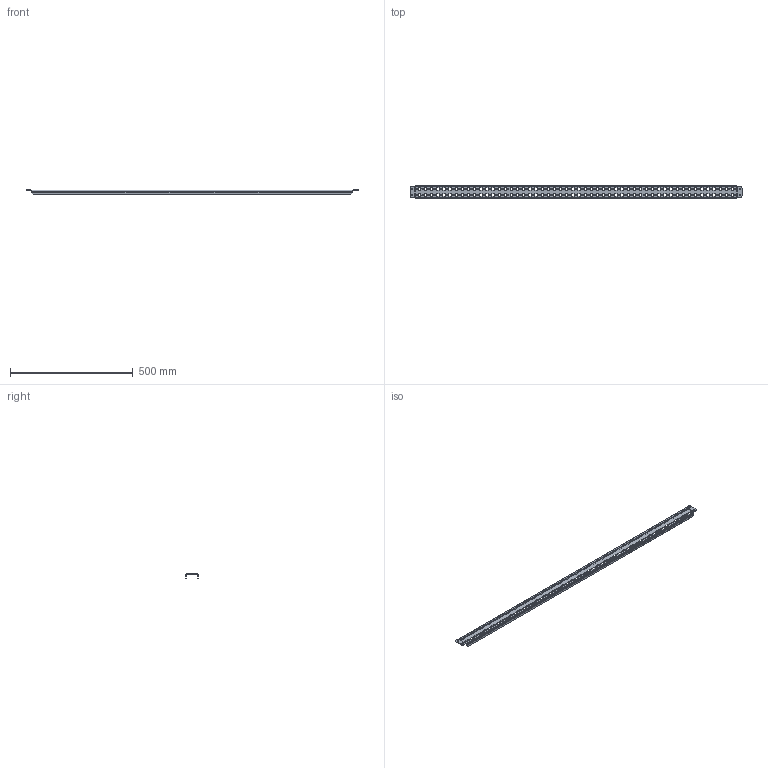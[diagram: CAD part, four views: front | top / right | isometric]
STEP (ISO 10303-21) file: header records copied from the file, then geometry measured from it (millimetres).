
FILE_DESCRIPTION (( 'STEP AP203' ), '1' );
FILE_NAME ('MRD 140.06 Ðåéêà ìîíòàæíàÿ âåðòèêàëüíàÿ.STEP', '2025-05-15T12:26:41', ( '' ), ( '' ), 'SwSTEP 2.0', 'SolidWorks 2019', '' );
FILE_SCHEMA (( 'CONFIG_CONTROL_DESIGN' ));
Products named in the file (1): MRD 140.06 Ðåéêà ìîíòàæíàÿ âåðòèêàëüíàÿ
Bounding box: 1352 x 49 x 19.03 mm (x, y, z)
Volume: 166219.4 mm3; surface area: 193791.9 mm2
Topology: 1 solids, 1 shells, 2166 faces, 6444 edges, 4280 vertices
Faces by surface type: plane 1710, cylinder 456
Entity records: 73689 total; most frequent: CARTESIAN_POINT 12891, ORIENTED_EDGE 12888, DIRECTION 11690, EDGE_CURVE 6444, VECTOR 5532, LINE 5532, VERTEX_POINT 4280, AXIS2_PLACEMENT_3D 3079
